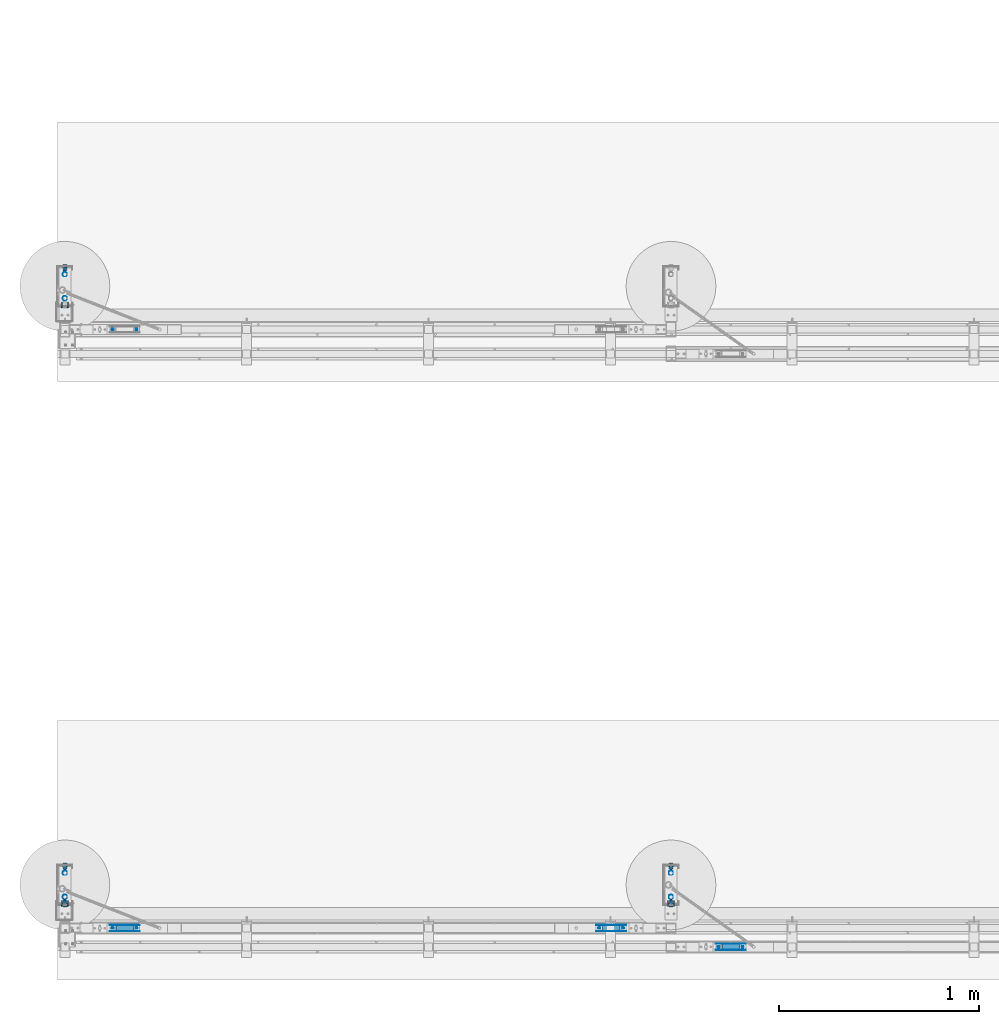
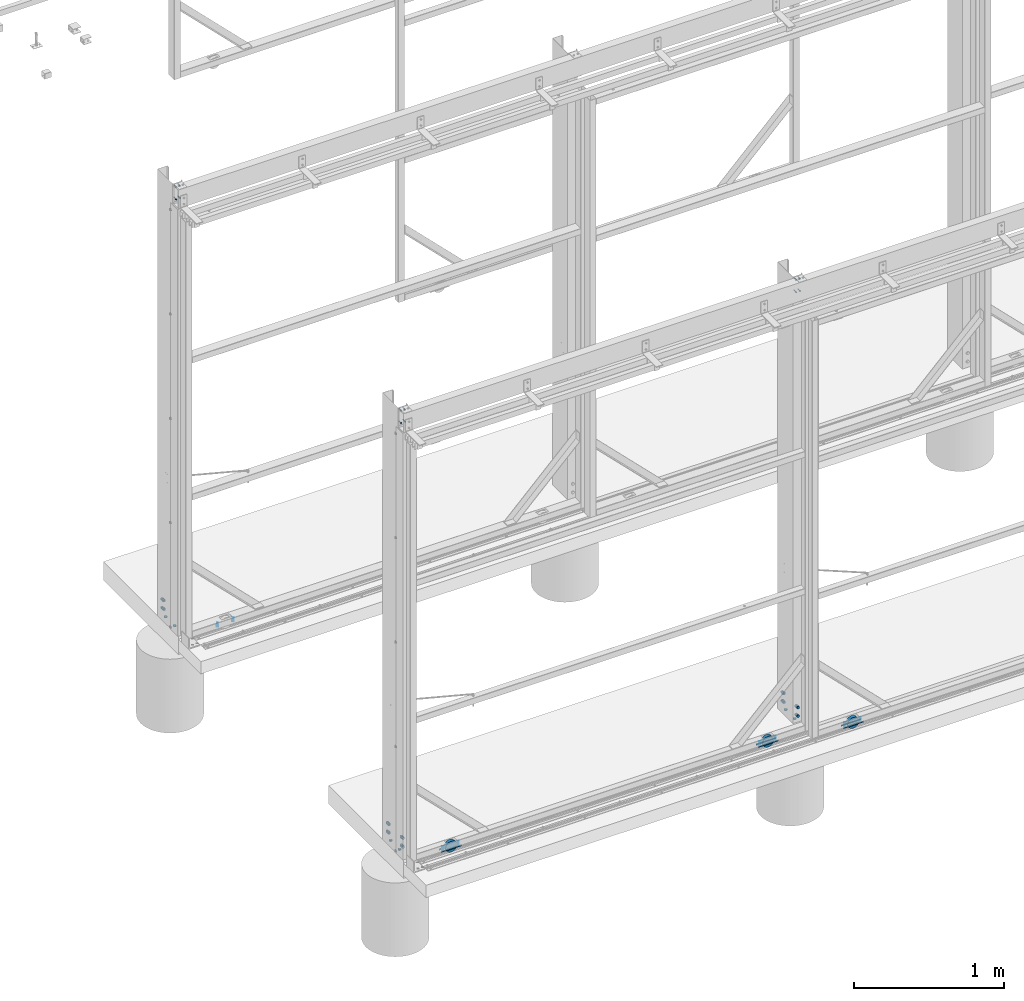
# One storey, part 17 of 91: 15 mechanical fasteners, 9 discrete accessories, 13 elements without a shape of their own.
"""IFC2X3 building model written with IfcOpenShell, lengths in millimetres."""

from ifc_helpers import new_model, si_unit, frame, frame_2d, origin_with_axes, origin_2d_with_axis, place, context, subcontext, project, spatial, polyline, circle_curve, parameter, trimmed, segment, composite_curve, circle, outline, extrude, source, transform, mapped, material, type_object, element, aggregate, save


model = new_model("IFC2X3")

# Units and contexts
model_context = context("Model", 3, precision=1e-05, world=origin_with_axes())
body_context = subcontext(model_context, "Body", "Model", "MODEL_VIEW")
ifc_project = project(units=[si_unit("LENGTHUNIT", "METRE", prefix="MILLI"), si_unit("AREAUNIT", "SQUARE_METRE"), si_unit("VOLUMEUNIT", "CUBIC_METRE"), si_unit("MASSUNIT", "GRAM", prefix="KILO"), si_unit("TIMEUNIT", "SECOND"), si_unit("PLANEANGLEUNIT", "RADIAN"), si_unit("SOLIDANGLEUNIT", "STERADIAN"), si_unit("THERMODYNAMICTEMPERATUREUNIT", "DEGREE_CELSIUS"), si_unit("LUMINOUSINTENSITYUNIT", "LUMEN")], contexts=[model_context])

# Site, building, storey
site_placement = place(None, origin_with_axes())
site = spatial("IfcSite", under=ifc_project, at=site_placement, Name="Undefined", CompositionType="ELEMENT")
building_placement = place(site_placement, origin_with_axes())
building = spatial("IfcBuilding", under=site, at=building_placement, Name="Undefined", CompositionType="ELEMENT")
storey_placement = place(building_placement, origin_with_axes())
storey = spatial("IfcBuildingStorey", under=building, at=storey_placement, Name="Undefined", CompositionType="ELEMENT", Elevation=0.0)

# Assembly, discrete accessories
assembly_1_placement = place(storey_placement, origin_with_axes())
assembly_1 = element("IfcElementAssembly", 1, at=assembly_1_placement, inside=storey, Name="PLATE", AssemblyPlace="NOTDEFINED", PredefinedType="RIGID_FRAME")
ifc_material_1 = material(Name="STEEL/250")
discrete_accessory_type_1 = type_object("IfcDiscreteAccessoryType", Name="PLATE")
discrete_accessory_1_placement = place(assembly_1_placement, frame((-113533.34, 84602.65, -19.0), z_axis=(0.0, -1.0, 0.0), x_axis=(0.0, 0.0, -1.0)))
discrete_accessory_1 = element("IfcDiscreteAccessory", 2, at=discrete_accessory_1_placement, type_object=discrete_accessory_type_1, material=ifc_material_1, Name="PLATE", ObjectType="PLT2*10", context=body_context, shape_type="SweptSolid", body=[
    extrude(outline(polyline([(0.0, 0.0), (10.0, 0.0), (10.0, 150.0), (0.0, 150.0), (0.0, 0.0)])), frame((0.0, 0.0, -1.0), z_axis=(0.0, 0.0, 1.0), x_axis=(1.0, 0.0, 0.0)), (0.0, 0.0, 1.0), 2.0),
])
discrete_accessory_2_placement = place(assembly_1_placement, frame((-113533.34, 84633.65, -19.0), z_axis=(0.0, -1.0, 0.0), x_axis=(0.0, 0.0, -1.0)))
discrete_accessory_2 = element("IfcDiscreteAccessory", 3, at=discrete_accessory_2_placement, type_object=discrete_accessory_type_1, material=ifc_material_1, Name="PLATE", ObjectType="PLT2*10", context=body_context, shape_type="SweptSolid", body=[
    extrude(outline(polyline([(0.0, 0.0), (10.0, 0.0), (10.0, 150.0), (0.0, 150.0), (0.0, 0.0)])), frame((0.0, 0.0, -1.0), z_axis=(0.0, 0.0, 1.0), x_axis=(1.0, 0.0, 0.0)), (0.0, 0.0, 1.0), 2.0),
])

assembly_2_placement = place(storey_placement, origin_with_axes())
assembly_2 = element("IfcElementAssembly", 4, at=assembly_2_placement, inside=storey, Name="PLATE", AssemblyPlace="NOTDEFINED", PredefinedType="RIGID_FRAME")
discrete_accessory_3_placement = place(assembly_2_placement, frame((-114133.34, 84696.65, -19.0), z_axis=(0.0, -1.0, 0.0), x_axis=(0.0, 0.0, -1.0)))
discrete_accessory_3 = element("IfcDiscreteAccessory", 5, at=discrete_accessory_3_placement, type_object=discrete_accessory_type_1, material=ifc_material_1, Name="PLATE", ObjectType="PLT2*10", context=body_context, shape_type="SweptSolid", body=[
    extrude(outline(polyline([(0.0, 0.0), (10.0, 0.0), (10.0, 150.0), (0.0, 150.0), (0.0, 0.0)])), frame((0.0, 0.0, -1.0), z_axis=(0.0, 0.0, 1.0), x_axis=(1.0, 0.0, 0.0)), (0.0, 0.0, 1.0), 2.0),
])
discrete_accessory_4_placement = place(assembly_2_placement, frame((-114133.34, 84727.65, -19.0), z_axis=(0.0, -1.0, 0.0), x_axis=(0.0, 0.0, -1.0)))
discrete_accessory_4 = element("IfcDiscreteAccessory", 6, at=discrete_accessory_4_placement, type_object=discrete_accessory_type_1, material=ifc_material_1, Name="PLATE", ObjectType="PLT2*10", context=body_context, shape_type="SweptSolid", body=[
    extrude(outline(polyline([(0.0, 0.0), (10.0, 0.0), (10.0, 150.0), (0.0, 150.0), (0.0, 0.0)])), frame((0.0, 0.0, -1.0), z_axis=(0.0, 0.0, 1.0), x_axis=(1.0, 0.0, 0.0)), (0.0, 0.0, 1.0), 2.0),
])

assembly_3_placement = place(storey_placement, origin_with_axes())
assembly_3 = element("IfcElementAssembly", 7, at=assembly_3_placement, inside=storey, Name="PLATE", AssemblyPlace="NOTDEFINED", PredefinedType="RIGID_FRAME")
discrete_accessory_5_placement = place(assembly_3_placement, frame((-116570.84, 84696.65, -19.0), z_axis=(0.0, -1.0, 0.0), x_axis=(0.0, 0.0, -1.0)))
discrete_accessory_5 = element("IfcDiscreteAccessory", 8, at=discrete_accessory_5_placement, type_object=discrete_accessory_type_1, material=ifc_material_1, Name="PLATE", ObjectType="PLT2*10", context=body_context, shape_type="SweptSolid", body=[
    extrude(outline(polyline([(0.0, 0.0), (10.0, 0.0), (10.0, 150.0), (0.0, 150.0), (0.0, 0.0)])), frame((0.0, 0.0, -1.0), z_axis=(0.0, 0.0, 1.0), x_axis=(1.0, 0.0, 0.0)), (0.0, 0.0, 1.0), 2.0),
])
discrete_accessory_6_placement = place(assembly_3_placement, frame((-116570.84, 84727.65, -19.0), z_axis=(0.0, -1.0, 0.0), x_axis=(0.0, 0.0, -1.0)))
discrete_accessory_6 = element("IfcDiscreteAccessory", 9, at=discrete_accessory_6_placement, type_object=discrete_accessory_type_1, material=ifc_material_1, Name="PLATE", ObjectType="PLT2*10", context=body_context, shape_type="SweptSolid", body=[
    extrude(outline(polyline([(0.0, 0.0), (10.0, 0.0), (10.0, 150.0), (0.0, 150.0), (0.0, 0.0)])), frame((0.0, 0.0, -1.0), z_axis=(0.0, 0.0, 1.0), x_axis=(1.0, 0.0, 0.0)), (0.0, 0.0, 1.0), 2.0),
])

# Assembly, mechanical fastener
assembly_4_placement = place(storey_placement, origin_with_axes())
assembly_4 = element("IfcElementAssembly", 10, at=assembly_4_placement, inside=storey, Name="PLATE", AssemblyPlace="NOTDEFINED", PredefinedType="RIGID_FRAME")
ifc_material_2 = material(Name="TEK_11TPIM")
discrete_accessory_type_2 = type_object("IfcDiscreteAccessoryType", Name="Bolt assembly")
shared_shape_1 = source(origin_with_axes(), body_context, "Body", "SweptSolid", [
    extrude(circle(Radius=3.0, at=origin_2d_with_axis()), frame((0.0, 0.0, 0.0), z_axis=(0.0, 1.0, 0.0), x_axis=(1.0, 0.0, 0.0)), (0.0, 0.0, 1.0), 2.1),
    extrude(outline(polyline([(4.61880215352, 0.0), (2.30940107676, 4.00000000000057), (-2.30940107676, 4.00000000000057), (-4.61880215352, 0.0), (-2.30940107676, -4.00000000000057), (2.30940107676, -4.00000000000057), (4.61880215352, 0.0)])), frame((0.0, -5.10000000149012, 0.0), z_axis=(0.0, 1.0, 0.0), x_axis=(1.0, 0.0, 0.0)), (0.0, 0.0, 1.0), 5.0),
    extrude(circle(Radius=3.0, at=origin_2d_with_axis()), frame((0.0, -0.100000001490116, 0.0), z_axis=(0.0, 1.0, 0.0), x_axis=(1.0, 0.0, 0.0)), (0.0, 0.0, 1.0), 25.0),
    extrude(circle(Radius=3.0, at=origin_2d_with_axis()), frame((0.0, -0.100000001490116, 0.0), z_axis=(0.0, 1.0, 0.0), x_axis=(1.0, 0.0, 0.0)), (0.0, 0.0, 1.0), 0.1),
    extrude(circle(Radius=3.0, at=origin_2d_with_axis()), frame((0.0, 2.00000000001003, 0.0), z_axis=(0.0, 1.0, 0.0), x_axis=(1.0, 0.0, 0.0)), (0.0, 0.0, 1.0), 0.1),
    extrude(outline(polyline([(3.46410161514, 0.0), (1.73205080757, 3.00000000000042), (-1.73205080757, 3.00000000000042), (-3.46410161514, 0.0), (-1.73205080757, -3.00000000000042), (1.73205080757, -3.00000000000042), (3.46410161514, 0.0)])), frame((0.0, 2.10000000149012, 0.0), z_axis=(0.0, 1.0, 0.0), x_axis=(1.0, 0.0, 0.0)), (0.0, 0.0, 1.0), 0.1),
])
mechanical_fastener_1_placement = place(assembly_4_placement, frame((-116435.84, 87712.15, -19.0), z_axis=(0.0, 1.0, 0.0), x_axis=(-1.0, 0.0, 0.0)))
mechanical_fastener_1 = element("IfcMechanicalFastener", 11, at=mechanical_fastener_1_placement, type_object=discrete_accessory_type_2, material=ifc_material_2, Name="Bolt assembly", NominalDiameter=6.0, NominalLength=25.0, context=body_context, shape_type="MappedRepresentation", body=[
    mapped(shared_shape_1, transform((0.0, 0.0, 0.0))),
    mapped(shared_shape_1, transform((120.0, 0.0, 0.0))),
])
aggregate(assembly_4, [mechanical_fastener_1])

# Mechanical fastener
mechanical_fastener_2_placement = place(assembly_1_placement, frame((-113398.34, 84618.15, -19.0), z_axis=(0.0, 1.0, 0.0), x_axis=(-1.0, 0.0, 0.0)))
mechanical_fastener_2 = element("IfcMechanicalFastener", 12, at=mechanical_fastener_2_placement, type_object=discrete_accessory_type_2, material=ifc_material_2, Name="Bolt assembly", NominalDiameter=6.0, NominalLength=25.0, context=body_context, shape_type="MappedRepresentation", body=[
    mapped(shared_shape_1, transform((0.0, 0.0, 0.0))),
    mapped(shared_shape_1, transform((120.0, 0.0, 0.0))),
])

mechanical_fastener_3_placement = place(assembly_2_placement, frame((-113998.34, 84712.15, -19.0), z_axis=(0.0, 1.0, 0.0), x_axis=(-1.0, 0.0, 0.0)))
mechanical_fastener_3 = element("IfcMechanicalFastener", 13, at=mechanical_fastener_3_placement, type_object=discrete_accessory_type_2, material=ifc_material_2, Name="Bolt assembly", NominalDiameter=6.0, NominalLength=25.0, context=body_context, shape_type="MappedRepresentation", body=[
    mapped(shared_shape_1, transform((0.0, 0.0, 0.0))),
    mapped(shared_shape_1, transform((120.0, 0.0, 0.0))),
])

mechanical_fastener_4_placement = place(assembly_3_placement, frame((-116435.84, 84712.15, -19.0), z_axis=(0.0, 1.0, 0.0), x_axis=(-1.0, 0.0, 0.0)))
mechanical_fastener_4 = element("IfcMechanicalFastener", 14, at=mechanical_fastener_4_placement, type_object=discrete_accessory_type_2, material=ifc_material_2, Name="Bolt assembly", NominalDiameter=6.0, NominalLength=25.0, context=body_context, shape_type="MappedRepresentation", body=[
    mapped(shared_shape_1, transform((0.0, 0.0, 0.0))),
    mapped(shared_shape_1, transform((120.0, 0.0, 0.0))),
])

# Assembly, mechanical fastener
assembly_5_placement = place(storey_placement, origin_with_axes())
assembly_5 = element("IfcElementAssembly", 15, at=assembly_5_placement, inside=storey, Name="BASEPLATE", AssemblyPlace="NOTDEFINED", PredefinedType="RIGID_FRAME")
ifc_material_3 = material(Name="8.8S")
shared_shape_2 = source(origin_with_axes(), body_context, "Body", "SweptSolid", [
    extrude(circle(Radius=10.0, at=origin_2d_with_axis()), frame((0.0, -5.0, 0.0), z_axis=(0.0, 1.0, 0.0), x_axis=(1.0, 0.0, 0.0)), (0.0, 0.0, 1.0), 6.1),
])
mechanical_fastener_5_placement = place(assembly_5_placement, frame((-116795.84, 87868.65, -31.0), z_axis=(-1.0, 0.0, 0.0), x_axis=(0.0, 1.0, 0.0)))
mechanical_fastener_5 = element("IfcMechanicalFastener", 16, at=mechanical_fastener_5_placement, type_object=discrete_accessory_type_2, material=ifc_material_3, Name="Bolt assembly", NominalDiameter=20.0, NominalLength=16.0, context=body_context, shape_type="MappedRepresentation", body=[
    mapped(shared_shape_2, transform((0.0, 0.0, 0.0))),
    mapped(shared_shape_2, transform((120.0, 0.0, 0.0))),
])
aggregate(assembly_5, [mechanical_fastener_5])

assembly_6_placement = place(storey_placement, origin_with_axes())
assembly_6 = element("IfcElementAssembly", 17, at=assembly_6_placement, inside=storey, Name="BASEPLATE", AssemblyPlace="NOTDEFINED", PredefinedType="RIGID_FRAME")
mechanical_fastener_6_placement = place(assembly_6_placement, frame((-116795.84, 84868.65, -31.0), z_axis=(-1.0, 0.0, 0.0), x_axis=(0.0, 1.0, 0.0)))
mechanical_fastener_6 = element("IfcMechanicalFastener", 18, at=mechanical_fastener_6_placement, type_object=discrete_accessory_type_2, material=ifc_material_3, Name="Bolt assembly", NominalDiameter=20.0, NominalLength=16.0, context=body_context, shape_type="MappedRepresentation", body=[
    mapped(shared_shape_2, transform((0.0, 0.0, 0.0))),
    mapped(shared_shape_2, transform((120.0, 0.0, 0.0))),
])
aggregate(assembly_6, [mechanical_fastener_6])

assembly_7_placement = place(storey_placement, origin_with_axes())
assembly_7 = element("IfcElementAssembly", 19, at=assembly_7_placement, inside=storey, Name="BASEPLATE", AssemblyPlace="NOTDEFINED", PredefinedType="RIGID_FRAME")
mechanical_fastener_7_placement = place(assembly_7_placement, frame((-113758.34, 84868.65, -31.0), z_axis=(-1.0, 0.0, 0.0), x_axis=(0.0, 1.0, 0.0)))
mechanical_fastener_7 = element("IfcMechanicalFastener", 20, at=mechanical_fastener_7_placement, type_object=discrete_accessory_type_2, material=ifc_material_3, Name="Bolt assembly", NominalDiameter=20.0, NominalLength=16.0, context=body_context, shape_type="MappedRepresentation", body=[
    mapped(shared_shape_2, transform((0.0, 0.0, 0.0))),
    mapped(shared_shape_2, transform((120.0, 0.0, 0.0))),
])
aggregate(assembly_7, [mechanical_fastener_7])

assembly_8_placement = place(storey_placement, origin_with_axes())
assembly_8 = element("IfcElementAssembly", 21, at=assembly_8_placement, inside=storey, Name="FASCIA BRACKET", AssemblyPlace="NOTDEFINED", PredefinedType="RIGID_FRAME")
ifc_material_4 = material(Name="TEK_16TPIM")
shared_shape_3 = source(origin_with_axes(), body_context, "Body", "SweptSolid", [
    extrude(circle(Radius=3.5, at=origin_2d_with_axis()), frame((0.0, -1.60000000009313, 0.0), z_axis=(0.0, 1.0, 0.0), x_axis=(1.0, 0.0, 0.0)), (0.0, 0.0, 1.0), 1.7),
    extrude(outline(polyline([(4.04145188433, 0.0), (2.020725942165, 3.5000000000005), (-2.020725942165, 3.5000000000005), (-4.04145188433, 0.0), (-2.020725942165, -3.5000000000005), (2.020725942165, -3.5000000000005), (4.04145188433, 0.0)])), frame((0.0, -6.70000000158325, 0.0), z_axis=(0.0, 1.0, 0.0), x_axis=(1.0, 0.0, 0.0)), (0.0, 0.0, 1.0), 5.0),
    extrude(circle(Radius=2.5, at=origin_2d_with_axis()), frame((0.0, -1.70000000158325, 0.0), z_axis=(0.0, 1.0, 0.0), x_axis=(1.0, 0.0, 0.0)), (0.0, 0.0, 1.0), 25.0),
    extrude(circle(Radius=2.5, at=origin_2d_with_axis()), frame((0.0, -1.70000000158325, 0.0), z_axis=(0.0, 1.0, 0.0), x_axis=(1.0, 0.0, 0.0)), (0.0, 0.0, 1.0), 0.1),
    extrude(circle(Radius=2.5, at=origin_2d_with_axis()), frame((0.0, 0.0, 0.0), z_axis=(0.0, 1.0, 0.0), x_axis=(1.0, 0.0, 0.0)), (0.0, 0.0, 1.0), 0.1),
    extrude(outline(polyline([(2.88675134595, 0.0), (1.443375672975, 2.50000000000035), (-1.443375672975, 2.50000000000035), (-2.88675134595, 0.0), (-1.443375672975, -2.50000000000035), (1.443375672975, -2.50000000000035), (2.88675134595, 0.0)])), frame((0.0, 0.1, 0.0), z_axis=(0.0, 1.0, 0.0), x_axis=(1.0, 0.0, 0.0)), (0.0, 0.0, 1.0), 0.1),
])
mechanical_fastener_8_placement = place(assembly_8_placement, frame((-116795.839999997, 87827.1514572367, 3570.01721743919), z_axis=(1.0, 0.0, 0.0), x_axis=(0.0, 0.0, -1.0)))
mechanical_fastener_8 = element("IfcMechanicalFastener", 22, at=mechanical_fastener_8_placement, type_object=discrete_accessory_type_2, material=ifc_material_4, Name="Bolt assembly", NominalDiameter=5.0, NominalLength=25.0, context=body_context, shape_type="MappedRepresentation", body=[
    mapped(shared_shape_3, transform((0.0, 0.0, -15.0))),
    mapped(shared_shape_3, transform((100.0, 0.0, -15.0))),
    mapped(shared_shape_3, transform((0.0, 0.0, 15.0))),
    mapped(shared_shape_3, transform((100.0, 0.0, 15.0))),
])
aggregate(assembly_8, [mechanical_fastener_8])

assembly_9_placement = place(storey_placement, origin_with_axes())
assembly_9 = element("IfcElementAssembly", 23, at=assembly_9_placement, inside=storey, Name="FASCIA BRACKET", AssemblyPlace="NOTDEFINED", PredefinedType="RIGID_FRAME")
mechanical_fastener_9_placement = place(assembly_9_placement, frame((-116795.839999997, 84827.1514572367, 3570.01721743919), z_axis=(1.0, 0.0, 0.0), x_axis=(0.0, 0.0, -1.0)))
mechanical_fastener_9 = element("IfcMechanicalFastener", 24, at=mechanical_fastener_9_placement, type_object=discrete_accessory_type_2, material=ifc_material_4, Name="Bolt assembly", NominalDiameter=5.0, NominalLength=25.0, context=body_context, shape_type="MappedRepresentation", body=[
    mapped(shared_shape_3, transform((0.0, 0.0, -15.0))),
    mapped(shared_shape_3, transform((100.0, 0.0, -15.0))),
    mapped(shared_shape_3, transform((0.0, 0.0, 15.0))),
    mapped(shared_shape_3, transform((100.0, 0.0, 15.0))),
])
aggregate(assembly_9, [mechanical_fastener_9])

assembly_10_placement = place(storey_placement, origin_with_axes())
assembly_10 = element("IfcElementAssembly", 25, at=assembly_10_placement, inside=storey, Name="FASCIA BRACKET", AssemblyPlace="NOTDEFINED", PredefinedType="RIGID_FRAME")
mechanical_fastener_10_placement = place(assembly_10_placement, frame((-113758.339999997, 84827.1514572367, 3570.01721743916), z_axis=(1.0, 0.0, 0.0), x_axis=(0.0, 0.0, -1.0)))
mechanical_fastener_10 = element("IfcMechanicalFastener", 26, at=mechanical_fastener_10_placement, type_object=discrete_accessory_type_2, material=ifc_material_4, Name="Bolt assembly", NominalDiameter=5.0, NominalLength=25.0, context=body_context, shape_type="MappedRepresentation", body=[
    mapped(shared_shape_3, transform((0.0, 0.0, -15.0))),
    mapped(shared_shape_3, transform((100.0, 0.0, -15.0))),
    mapped(shared_shape_3, transform((0.0, 0.0, 15.0))),
    mapped(shared_shape_3, transform((100.0, 0.0, 15.0))),
])
aggregate(assembly_10, [mechanical_fastener_10])

assembly_11_placement = place(storey_placement, origin_with_axes())
assembly_11 = element("IfcElementAssembly", 27, at=assembly_11_placement, inside=storey, Name="COLUMN", AssemblyPlace="NOTDEFINED", PredefinedType="RIGID_FRAME")
shared_shape_4 = source(origin_with_axes(), body_context, "Body", "SweptSolid", [
    extrude(circle(Radius=7.0, at=origin_2d_with_axis()), frame((0.0, 4.79999999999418, 0.0), z_axis=(0.0, 1.0, 0.0), x_axis=(1.0, 0.0, 0.0)), (0.0, 0.0, 1.0), 6.1),
    extrude(outline(composite_curve([segment(polyline([(-4.0, 9.0), (4.0, 9.0)]), True, "CONTINUOUS"), segment(trimmed(circle_curve(frame_2d((4.0, 2.0), x_axis=(0.0, 1.0)), 7.0), [parameter(0.0)], [parameter(4.71238898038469)], False, "PARAMETER"), True, "CONTINUOUS"), segment(polyline([(11.0, 2.0), (11.0, -2.0)]), True, "CONTINUOUS"), segment(trimmed(circle_curve(frame_2d((4.0, -2.0), x_axis=(1.0, 0.0)), 7.0), [parameter(0.0)], [parameter(4.71238898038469)], False, "PARAMETER"), True, "CONTINUOUS"), segment(polyline([(4.0, -9.0), (-4.0, -9.0)]), True, "CONTINUOUS"), segment(trimmed(circle_curve(frame_2d((-4.0, -2.0), x_axis=(0.0, -1.0)), 7.0), [parameter(0.0)], [parameter(4.71238898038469)], False, "PARAMETER"), True, "CONTINUOUS"), segment(polyline([(-11.0, -2.0), (-11.0, 2.0)]), True, "CONTINUOUS"), segment(trimmed(circle_curve(frame_2d((-4.0, 2.0), x_axis=(-1.0, 0.0)), 7.0), [parameter(0.0)], [parameter(4.71238898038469)], False, "PARAMETER"), True, "DISCONTINUOUS")], self_intersect=False)), frame((0.0, 3.6, 0.0), z_axis=(0.0, 1.0, 0.0), x_axis=(1.0, 0.0, 0.0)), (0.0, 0.0, 1.0), 1.9),
    extrude(outline(polyline([(10.96965511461, 0.0), (5.484827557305, 9.50000000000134), (-5.484827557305, 9.50000000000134), (-10.96965511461, 0.0), (-5.484827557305, -9.50000000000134), (5.484827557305, -9.50000000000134), (10.96965511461, 0.0)])), frame((0.0, -4.5, 0.0), z_axis=(0.0, 1.0, 0.0), x_axis=(1.0, 0.0, 0.0)), (0.0, 0.0, 1.0), 8.0),
    extrude(circle(Radius=6.0, at=origin_2d_with_axis()), frame((0.0, 3.5, 0.0), z_axis=(0.0, 1.0, 0.0), x_axis=(1.0, 0.0, 0.0)), (0.0, 0.0, 1.0), 30.0),
    extrude(circle(Radius=12.0, at=origin_2d_with_axis()), frame((0.0, 10.9000000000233, 0.0), z_axis=(0.0, 1.0, 0.0), x_axis=(1.0, 0.0, 0.0)), (0.0, 0.0, 1.0), 3.1),
    extrude(outline(polyline([(12.12435565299, 0.0), (6.062177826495, 10.5000000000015), (-6.062177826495, 10.5000000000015), (-12.12435565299, 0.0), (-6.062177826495, -10.5000000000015), (6.062177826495, -10.5000000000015), (12.12435565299, 0.0)])), frame((0.0, 13.9999999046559, 0.0), z_axis=(0.0, 1.0, 0.0), x_axis=(1.0, 0.0, 0.0)), (0.0, 0.0, 1.0), 12.0),
])
mechanical_fastener_11_placement = place(assembly_11_placement, frame((-116795.84, 88033.65, 18.0), z_axis=(1.0, 0.0, 0.0), x_axis=(0.0, 0.0, 1.0)))
mechanical_fastener_11 = element("IfcMechanicalFastener", 28, at=mechanical_fastener_11_placement, type_object=discrete_accessory_type_2, material=ifc_material_3, Name="Bolt assembly", NominalDiameter=12.0, NominalLength=30.0, context=body_context, shape_type="MappedRepresentation", body=[
    mapped(shared_shape_4, transform((0.0, 0.0, 0.0))),
    mapped(shared_shape_4, transform((70.0, 0.0, 0.0))),
])
aggregate(assembly_11, [mechanical_fastener_11])

# Discrete accessory
discrete_accessory_type_3 = type_object("IfcDiscreteAccessoryType", Name="DOOR ROLLER")
discrete_accessory_7_placement = place(assembly_1_placement, frame((-113458.34, 84630.6509765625, -10.0), z_axis=(1.0, 0.0, 0.0), x_axis=(0.0, -1.0, 0.0)))
discrete_accessory_7 = element("IfcDiscreteAccessory", 29, at=discrete_accessory_7_placement, type_object=discrete_accessory_type_3, material=ifc_material_1, Name="DOOR ROLLER", ObjectType="D88", context=body_context, shape_type="SweptSolid", body=[
    extrude(circle(Radius=44.0, at=origin_2d_with_axis()), frame((25.0, 0.0, 0.0), z_axis=(-1.0, 0.0, 0.0), x_axis=(0.0, -1.0, 0.0)), (0.0, 0.0, 1.0), 25.0),
])

aggregate(assembly_1, [mechanical_fastener_2, discrete_accessory_1, discrete_accessory_2, discrete_accessory_7])

discrete_accessory_8_placement = place(assembly_2_placement, frame((-114058.34, 84724.6509765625, -10.0), z_axis=(1.0, 0.0, 0.0), x_axis=(0.0, -1.0, 0.0)))
discrete_accessory_8 = element("IfcDiscreteAccessory", 30, at=discrete_accessory_8_placement, type_object=discrete_accessory_type_3, material=ifc_material_1, Name="DOOR ROLLER", ObjectType="D88", context=body_context, shape_type="SweptSolid", body=[
    extrude(circle(Radius=44.0, at=origin_2d_with_axis()), frame((25.0, 0.0, 0.0), z_axis=(-1.0, 0.0, 0.0), x_axis=(0.0, -1.0, 0.0)), (0.0, 0.0, 1.0), 25.0),
])

aggregate(assembly_2, [mechanical_fastener_3, discrete_accessory_3, discrete_accessory_4, discrete_accessory_8])

discrete_accessory_9_placement = place(assembly_3_placement, frame((-116495.84, 84724.6509765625, -10.0), z_axis=(1.0, 0.0, 0.0), x_axis=(0.0, -1.0, 0.0)))
discrete_accessory_9 = element("IfcDiscreteAccessory", 31, at=discrete_accessory_9_placement, type_object=discrete_accessory_type_3, material=ifc_material_1, Name="DOOR ROLLER", ObjectType="D88", context=body_context, shape_type="SweptSolid", body=[
    extrude(circle(Radius=44.0, at=origin_2d_with_axis()), frame((25.0, 0.0, 0.0), z_axis=(-1.0, 0.0, 0.0), x_axis=(0.0, -1.0, 0.0)), (0.0, 0.0, 1.0), 25.0),
])

aggregate(assembly_3, [mechanical_fastener_4, discrete_accessory_5, discrete_accessory_6, discrete_accessory_9])

# Assembly, mechanical fasteners
assembly_12_placement = place(storey_placement, origin_with_axes())
assembly_12 = element("IfcElementAssembly", 32, at=assembly_12_placement, inside=storey, Name="COLUMN", AssemblyPlace="NOTDEFINED", PredefinedType="RIGID_FRAME")
shared_shape_5 = source(origin_with_axes(), body_context, "Body", "SweptSolid", [
    extrude(circle(Radius=7.0, at=origin_2d_with_axis()), frame((0.0, 4.79999999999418, 0.0), z_axis=(0.0, 1.0, 0.0), x_axis=(1.0, 0.0, 0.0)), (0.0, 0.0, 1.0), 6.1),
    extrude(outline(composite_curve([segment(polyline([(-4.0, 9.0), (4.0, 9.0)]), True, "CONTINUOUS"), segment(trimmed(circle_curve(frame_2d((4.0, 2.0), x_axis=(0.0, 1.0)), 7.0), [parameter(0.0)], [parameter(4.71238898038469)], False, "PARAMETER"), True, "CONTINUOUS"), segment(polyline([(11.0, 2.0), (11.0, -2.0)]), True, "CONTINUOUS"), segment(trimmed(circle_curve(frame_2d((4.0, -2.0), x_axis=(1.0, 0.0)), 7.0), [parameter(0.0)], [parameter(4.71238898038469)], False, "PARAMETER"), True, "CONTINUOUS"), segment(polyline([(4.0, -9.0), (-4.0, -9.0)]), True, "CONTINUOUS"), segment(trimmed(circle_curve(frame_2d((-4.0, -2.0), x_axis=(0.0, -1.0)), 7.0), [parameter(0.0)], [parameter(4.71238898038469)], False, "PARAMETER"), True, "CONTINUOUS"), segment(polyline([(-11.0, -2.0), (-11.0, 2.0)]), True, "CONTINUOUS"), segment(trimmed(circle_curve(frame_2d((-4.0, 2.0), x_axis=(-1.0, 0.0)), 7.0), [parameter(0.0)], [parameter(4.71238898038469)], False, "PARAMETER"), True, "DISCONTINUOUS")], self_intersect=False)), frame((0.0, 3.6, 0.0), z_axis=(0.0, 1.0, 0.0), x_axis=(1.0, 0.0, 0.0)), (0.0, 0.0, 1.0), 1.9),
    extrude(outline(polyline([(10.96965511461, 0.0), (5.484827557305, 9.50000000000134), (-5.484827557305, 9.50000000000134), (-10.96965511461, 0.0), (-5.484827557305, -9.50000000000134), (5.484827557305, -9.50000000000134), (10.96965511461, 0.0)])), frame((0.0, -4.5, 0.0), z_axis=(0.0, 1.0, 0.0), x_axis=(1.0, 0.0, 0.0)), (0.0, 0.0, 1.0), 8.0),
    extrude(circle(Radius=6.0, at=origin_2d_with_axis()), frame((0.0, 3.5, 0.0), z_axis=(0.0, 1.0, 0.0), x_axis=(1.0, 0.0, 0.0)), (0.0, 0.0, 1.0), 30.0),
    extrude(circle(Radius=12.0, at=origin_2d_with_axis()), frame((0.0, 10.9000000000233, 0.0), z_axis=(0.0, 1.0, 0.0), x_axis=(1.0, 0.0, 0.0)), (0.0, 0.0, 1.0), 3.1),
    extrude(outline(polyline([(12.12435565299, 0.0), (6.062177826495, 10.5000000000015), (-6.062177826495, 10.5000000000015), (-12.12435565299, 0.0), (-6.062177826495, -10.5000000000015), (6.062177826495, -10.5000000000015), (12.12435565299, 0.0)])), frame((0.0, 13.9999999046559, 0.0), z_axis=(0.0, 1.0, 0.0), x_axis=(1.0, 0.0, 0.0)), (0.0, 0.0, 1.0), 12.0),
])
mechanical_fastener_12_placement = place(assembly_12_placement, frame((-113758.34, 85033.65, 18.0), z_axis=(1.0, 0.0, 0.0), x_axis=(0.0, 0.0, 1.0)))
mechanical_fastener_12 = element("IfcMechanicalFastener", 33, at=mechanical_fastener_12_placement, type_object=discrete_accessory_type_2, material=ifc_material_3, Name="Bolt assembly", NominalDiameter=12.0, NominalLength=30.0, context=body_context, shape_type="MappedRepresentation", body=[
    mapped(shared_shape_5, transform((0.0, 0.0, 0.0))),
    mapped(shared_shape_5, transform((70.0, 0.0, 0.0))),
])
shared_shape_6 = source(origin_with_axes(), body_context, "Body", "SweptSolid", [
    extrude(circle(Radius=7.0, at=origin_2d_with_axis()), frame((0.0, 4.79999999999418, 0.0), z_axis=(0.0, 1.0, 0.0), x_axis=(1.0, 0.0, 0.0)), (0.0, 0.0, 1.0), 6.1),
    extrude(outline(composite_curve([segment(polyline([(-4.0, 9.0), (4.0, 9.0)]), True, "CONTINUOUS"), segment(trimmed(circle_curve(frame_2d((4.0, 2.0), x_axis=(0.0, 1.0)), 7.0), [parameter(0.0)], [parameter(4.71238898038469)], False, "PARAMETER"), True, "CONTINUOUS"), segment(polyline([(11.0, 2.0), (11.0, -2.0)]), True, "CONTINUOUS"), segment(trimmed(circle_curve(frame_2d((4.0, -2.0), x_axis=(1.0, 0.0)), 7.0), [parameter(0.0)], [parameter(4.71238898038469)], False, "PARAMETER"), True, "CONTINUOUS"), segment(polyline([(4.0, -9.0), (-4.0, -9.0)]), True, "CONTINUOUS"), segment(trimmed(circle_curve(frame_2d((-4.0, -2.0), x_axis=(0.0, -1.0)), 7.0), [parameter(0.0)], [parameter(4.71238898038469)], False, "PARAMETER"), True, "CONTINUOUS"), segment(polyline([(-11.0, -2.0), (-11.0, 2.0)]), True, "CONTINUOUS"), segment(trimmed(circle_curve(frame_2d((-4.0, 2.0), x_axis=(-1.0, 0.0)), 7.0), [parameter(0.0)], [parameter(4.71238898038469)], False, "PARAMETER"), True, "DISCONTINUOUS")], self_intersect=False)), frame((0.0, 3.6, 0.0), z_axis=(0.0, 1.0, 0.0), x_axis=(1.0, 0.0, 0.0)), (0.0, 0.0, 1.0), 1.9),
    extrude(outline(polyline([(10.96965511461, 0.0), (5.484827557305, 9.50000000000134), (-5.484827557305, 9.50000000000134), (-10.96965511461, 0.0), (-5.484827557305, -9.50000000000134), (5.484827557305, -9.50000000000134), (10.96965511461, 0.0)])), frame((0.0, -4.5, 0.0), z_axis=(0.0, 1.0, 0.0), x_axis=(1.0, 0.0, 0.0)), (0.0, 0.0, 1.0), 8.0),
    extrude(circle(Radius=6.0, at=origin_2d_with_axis()), frame((0.0, 3.5, 0.0), z_axis=(0.0, 1.0, 0.0), x_axis=(1.0, 0.0, 0.0)), (0.0, 0.0, 1.0), 30.0),
    extrude(circle(Radius=12.0, at=origin_2d_with_axis()), frame((0.0, 10.9000000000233, 0.0), z_axis=(0.0, 1.0, 0.0), x_axis=(1.0, 0.0, 0.0)), (0.0, 0.0, 1.0), 3.1),
    extrude(outline(polyline([(12.12435565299, 0.0), (6.062177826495, 10.5000000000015), (-6.062177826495, 10.5000000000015), (-12.12435565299, 0.0), (-6.062177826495, -10.5000000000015), (6.062177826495, -10.5000000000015), (12.12435565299, 0.0)])), frame((0.0, 13.9999999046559, 0.0), z_axis=(0.0, 1.0, 0.0), x_axis=(1.0, 0.0, 0.0)), (0.0, 0.0, 1.0), 12.0),
])
mechanical_fastener_13_placement = place(assembly_12_placement, frame((-113758.34, 84823.65, 18.0), z_axis=(-1.0, 0.0, 0.0), x_axis=(0.0, 0.0, 1.0)))
mechanical_fastener_13 = element("IfcMechanicalFastener", 34, at=mechanical_fastener_13_placement, type_object=discrete_accessory_type_2, material=ifc_material_3, Name="Bolt assembly", NominalDiameter=12.0, NominalLength=30.0, context=body_context, shape_type="MappedRepresentation", body=[
    mapped(shared_shape_6, transform((0.0, 0.0, 0.0))),
    mapped(shared_shape_6, transform((70.0, 0.0, 0.0))),
])
aggregate(assembly_12, [mechanical_fastener_12, mechanical_fastener_13])

assembly_13_placement = place(storey_placement, origin_with_axes())
assembly_13 = element("IfcElementAssembly", 35, at=assembly_13_placement, inside=storey, Name="COLUMN", AssemblyPlace="NOTDEFINED", PredefinedType="RIGID_FRAME")
shared_shape_7 = source(origin_with_axes(), body_context, "Body", "SweptSolid", [
    extrude(circle(Radius=7.0, at=origin_2d_with_axis()), frame((0.0, 4.79999999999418, 0.0), z_axis=(0.0, 1.0, 0.0), x_axis=(1.0, 0.0, 0.0)), (0.0, 0.0, 1.0), 6.1),
    extrude(outline(composite_curve([segment(polyline([(-4.0, 9.0), (4.0, 9.0)]), True, "CONTINUOUS"), segment(trimmed(circle_curve(frame_2d((4.0, 2.0), x_axis=(0.0, 1.0)), 7.0), [parameter(0.0)], [parameter(4.71238898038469)], False, "PARAMETER"), True, "CONTINUOUS"), segment(polyline([(11.0, 2.0), (11.0, -2.0)]), True, "CONTINUOUS"), segment(trimmed(circle_curve(frame_2d((4.0, -2.0), x_axis=(1.0, 0.0)), 7.0), [parameter(0.0)], [parameter(4.71238898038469)], False, "PARAMETER"), True, "CONTINUOUS"), segment(polyline([(4.0, -9.0), (-4.0, -9.0)]), True, "CONTINUOUS"), segment(trimmed(circle_curve(frame_2d((-4.0, -2.0), x_axis=(0.0, -1.0)), 7.0), [parameter(0.0)], [parameter(4.71238898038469)], False, "PARAMETER"), True, "CONTINUOUS"), segment(polyline([(-11.0, -2.0), (-11.0, 2.0)]), True, "CONTINUOUS"), segment(trimmed(circle_curve(frame_2d((-4.0, 2.0), x_axis=(-1.0, 0.0)), 7.0), [parameter(0.0)], [parameter(4.71238898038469)], False, "PARAMETER"), True, "DISCONTINUOUS")], self_intersect=False)), frame((0.0, 3.6, 0.0), z_axis=(0.0, 1.0, 0.0), x_axis=(1.0, 0.0, 0.0)), (0.0, 0.0, 1.0), 1.9),
    extrude(outline(polyline([(10.96965511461, 0.0), (5.484827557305, 9.50000000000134), (-5.484827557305, 9.50000000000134), (-10.96965511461, 0.0), (-5.484827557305, -9.50000000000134), (5.484827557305, -9.50000000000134), (10.96965511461, 0.0)])), frame((0.0, -4.5, 0.0), z_axis=(0.0, 1.0, 0.0), x_axis=(1.0, 0.0, 0.0)), (0.0, 0.0, 1.0), 8.0),
    extrude(circle(Radius=6.0, at=origin_2d_with_axis()), frame((0.0, 3.5, 0.0), z_axis=(0.0, 1.0, 0.0), x_axis=(1.0, 0.0, 0.0)), (0.0, 0.0, 1.0), 30.0),
    extrude(circle(Radius=12.0, at=origin_2d_with_axis()), frame((0.0, 10.9000000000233, 0.0), z_axis=(0.0, 1.0, 0.0), x_axis=(1.0, 0.0, 0.0)), (0.0, 0.0, 1.0), 3.1),
    extrude(outline(polyline([(12.12435565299, 0.0), (6.062177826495, 10.5000000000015), (-6.062177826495, 10.5000000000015), (-12.12435565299, 0.0), (-6.062177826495, -10.5000000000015), (6.062177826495, -10.5000000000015), (12.12435565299, 0.0)])), frame((0.0, 13.9999999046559, 0.0), z_axis=(0.0, 1.0, 0.0), x_axis=(1.0, 0.0, 0.0)), (0.0, 0.0, 1.0), 12.0),
])
mechanical_fastener_14_placement = place(assembly_13_placement, frame((-116795.84, 85033.65, 18.0), z_axis=(1.0, 0.0, 0.0), x_axis=(0.0, 0.0, 1.0)))
mechanical_fastener_14 = element("IfcMechanicalFastener", 36, at=mechanical_fastener_14_placement, type_object=discrete_accessory_type_2, material=ifc_material_3, Name="Bolt assembly", NominalDiameter=12.0, NominalLength=30.0, context=body_context, shape_type="MappedRepresentation", body=[
    mapped(shared_shape_7, transform((0.0, 0.0, 0.0))),
    mapped(shared_shape_7, transform((70.0, 0.0, 0.0))),
])
shared_shape_8 = source(origin_with_axes(), body_context, "Body", "SweptSolid", [
    extrude(circle(Radius=7.0, at=origin_2d_with_axis()), frame((0.0, 4.79999999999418, 0.0), z_axis=(0.0, 1.0, 0.0), x_axis=(1.0, 0.0, 0.0)), (0.0, 0.0, 1.0), 6.1),
    extrude(outline(composite_curve([segment(polyline([(-4.0, 9.0), (4.0, 9.0)]), True, "CONTINUOUS"), segment(trimmed(circle_curve(frame_2d((4.0, 2.0), x_axis=(0.0, 1.0)), 7.0), [parameter(0.0)], [parameter(4.71238898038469)], False, "PARAMETER"), True, "CONTINUOUS"), segment(polyline([(11.0, 2.0), (11.0, -2.0)]), True, "CONTINUOUS"), segment(trimmed(circle_curve(frame_2d((4.0, -2.0), x_axis=(1.0, 0.0)), 7.0), [parameter(0.0)], [parameter(4.71238898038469)], False, "PARAMETER"), True, "CONTINUOUS"), segment(polyline([(4.0, -9.0), (-4.0, -9.0)]), True, "CONTINUOUS"), segment(trimmed(circle_curve(frame_2d((-4.0, -2.0), x_axis=(0.0, -1.0)), 7.0), [parameter(0.0)], [parameter(4.71238898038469)], False, "PARAMETER"), True, "CONTINUOUS"), segment(polyline([(-11.0, -2.0), (-11.0, 2.0)]), True, "CONTINUOUS"), segment(trimmed(circle_curve(frame_2d((-4.0, 2.0), x_axis=(-1.0, 0.0)), 7.0), [parameter(0.0)], [parameter(4.71238898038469)], False, "PARAMETER"), True, "DISCONTINUOUS")], self_intersect=False)), frame((0.0, 3.6, 0.0), z_axis=(0.0, 1.0, 0.0), x_axis=(1.0, 0.0, 0.0)), (0.0, 0.0, 1.0), 1.9),
    extrude(outline(polyline([(10.96965511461, 0.0), (5.484827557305, 9.50000000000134), (-5.484827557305, 9.50000000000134), (-10.96965511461, 0.0), (-5.484827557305, -9.50000000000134), (5.484827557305, -9.50000000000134), (10.96965511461, 0.0)])), frame((0.0, -4.5, 0.0), z_axis=(0.0, 1.0, 0.0), x_axis=(1.0, 0.0, 0.0)), (0.0, 0.0, 1.0), 8.0),
    extrude(circle(Radius=6.0, at=origin_2d_with_axis()), frame((0.0, 3.5, 0.0), z_axis=(0.0, 1.0, 0.0), x_axis=(1.0, 0.0, 0.0)), (0.0, 0.0, 1.0), 30.0),
    extrude(circle(Radius=12.0, at=origin_2d_with_axis()), frame((0.0, 10.9000000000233, 0.0), z_axis=(0.0, 1.0, 0.0), x_axis=(1.0, 0.0, 0.0)), (0.0, 0.0, 1.0), 3.1),
    extrude(outline(polyline([(12.12435565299, 0.0), (6.062177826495, 10.5000000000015), (-6.062177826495, 10.5000000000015), (-12.12435565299, 0.0), (-6.062177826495, -10.5000000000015), (6.062177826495, -10.5000000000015), (12.12435565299, 0.0)])), frame((0.0, 13.9999999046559, 0.0), z_axis=(0.0, 1.0, 0.0), x_axis=(1.0, 0.0, 0.0)), (0.0, 0.0, 1.0), 12.0),
])
mechanical_fastener_15_placement = place(assembly_13_placement, frame((-116795.84, 84823.65, 18.0), z_axis=(-1.0, 0.0, 0.0), x_axis=(0.0, 0.0, 1.0)))
mechanical_fastener_15 = element("IfcMechanicalFastener", 37, at=mechanical_fastener_15_placement, type_object=discrete_accessory_type_2, material=ifc_material_3, Name="Bolt assembly", NominalDiameter=12.0, NominalLength=30.0, context=body_context, shape_type="MappedRepresentation", body=[
    mapped(shared_shape_8, transform((0.0, 0.0, 0.0))),
    mapped(shared_shape_8, transform((70.0, 0.0, 0.0))),
])
aggregate(assembly_13, [mechanical_fastener_14, mechanical_fastener_15])

save(model, "model.ifc")
